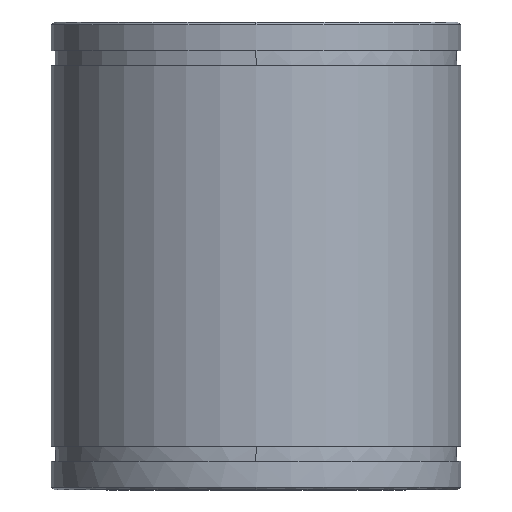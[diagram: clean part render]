
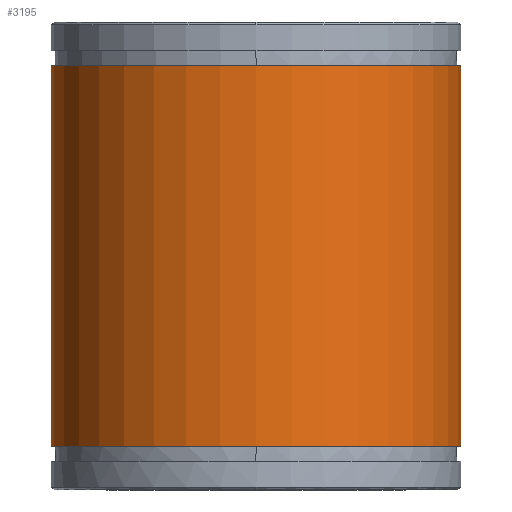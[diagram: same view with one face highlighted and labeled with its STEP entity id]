
A CAD part, front view. The second image highlights one B-rep face of the part: STEP entity #3195.
In plain terms, the highlighted cylindrical face has radius 35 mm (diameter 70 mm), a partial arc.
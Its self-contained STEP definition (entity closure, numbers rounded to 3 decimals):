
#2928=CARTESIAN_POINT('Axis2P3D Location',(0.,0.,72.5)) ;
#2932=CARTESIAN_POINT('Vertex',(-35.,0.,72.5)) ;
#2934=CARTESIAN_POINT('Vertex',(35.,0.,72.5)) ;
#3165=CARTESIAN_POINT('Axis2P3D Location',(0.,0.,-4.)) ;
#3170=CARTESIAN_POINT('Line Origine',(35.,0.,-4.)) ;
#3174=CARTESIAN_POINT('Vertex',(35.,0.,7.5)) ;
#3177=CARTESIAN_POINT('Line Origine',(-35.,0.,-4.)) ;
#3181=CARTESIAN_POINT('Vertex',(-35.,0.,7.5)) ;
#3184=CARTESIAN_POINT('Axis2P3D Location',(0.,0.,7.5)) ;
#2929=DIRECTION('Axis2P3D Direction',(0.,-0.,1.)) ;
#3166=DIRECTION('Axis2P3D Direction',(0.,0.,1.)) ;
#3167=DIRECTION('Axis2P3D XDirection',(-1.,0.,0.)) ;
#3171=DIRECTION('Vector Direction',(0.,0.,1.)) ;
#3178=DIRECTION('Vector Direction',(0.,0.,1.)) ;
#3185=DIRECTION('Axis2P3D Direction',(0.,0.,1.)) ;
#2930=AXIS2_PLACEMENT_3D('Circle Axis2P3D',#2928,#2929,$) ;
#3168=AXIS2_PLACEMENT_3D('Cylinder Axis2P3D',#3165,#3166,#3167) ;
#3186=AXIS2_PLACEMENT_3D('Circle Axis2P3D',#3184,#3185,$) ;
#3190=ORIENTED_EDGE('',*,*,#3176,.F.) ;
#3191=ORIENTED_EDGE('',*,*,#2936,.F.) ;
#3192=ORIENTED_EDGE('',*,*,#3183,.T.) ;
#3193=ORIENTED_EDGE('',*,*,#3188,.F.) ;
#3172=VECTOR('Line Direction',#3171,1.) ;
#3179=VECTOR('Line Direction',#3178,1.) ;
#3195=ADVANCED_FACE('MANIFOLD_SOLID_BREP #2814',(#3194),#3169,.T.) ;
#2931=CIRCLE('generated circle',#2930,35.) ;
#3187=CIRCLE('generated circle',#3186,35.) ;
#3169=CYLINDRICAL_SURFACE('generated cylinder',#3168,35.) ;
#2936=EDGE_CURVE('',#2933,#2935,#2931,.T.) ;
#3176=EDGE_CURVE('',#2935,#3175,#3173,.F.) ;
#3183=EDGE_CURVE('',#2933,#3182,#3180,.F.) ;
#3188=EDGE_CURVE('',#3175,#3182,#3187,.F.) ;
#3189=EDGE_LOOP('',(#3190,#3191,#3192,#3193)) ;
#3194=FACE_OUTER_BOUND('',#3189,.T.) ;
#3173=LINE('Line',#3170,#3172) ;
#3180=LINE('Line',#3177,#3179) ;
#2933=VERTEX_POINT('',#2932) ;
#2935=VERTEX_POINT('',#2934) ;
#3175=VERTEX_POINT('',#3174) ;
#3182=VERTEX_POINT('',#3181) ;
